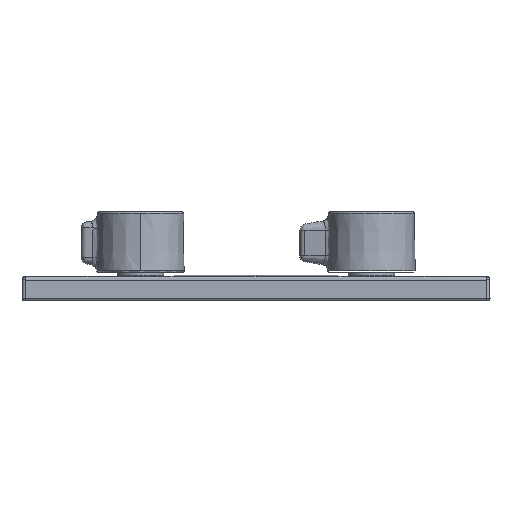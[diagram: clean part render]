
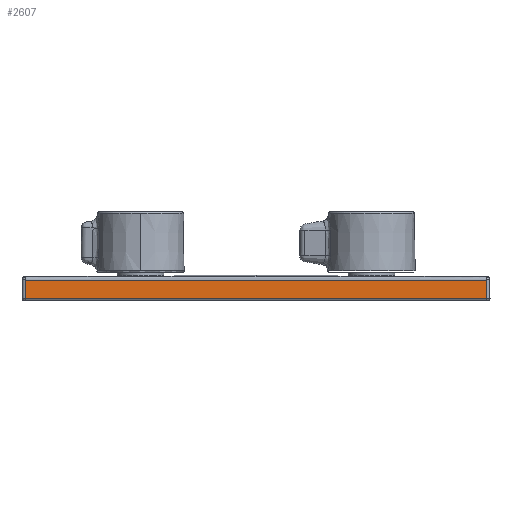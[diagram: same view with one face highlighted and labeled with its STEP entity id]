
A CAD part, left-side view. The second image highlights one B-rep face of the part: STEP entity #2607.
In plain terms, the highlighted planar face has unit normal (-1, 0, 0.009).
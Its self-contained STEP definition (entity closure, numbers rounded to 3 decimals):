
#76 = CARTESIAN_POINT ( 'NONE',  ( -74.94, 25.287, 6.847 ) ) ;
#106 = EDGE_CURVE ( 'NONE', #163, #1867, #3523, .T. ) ;
#151 = DIRECTION ( 'NONE',  ( -1., 0., 0.009 ) ) ;
#163 = VERTEX_POINT ( 'NONE', #2365 ) ;
#388 = LINE ( 'NONE', #1481, #2592 ) ;
#550 = CARTESIAN_POINT ( 'NONE',  ( -74.943, 74.582, 6.523 ) ) ;
#601 = CARTESIAN_POINT ( 'NONE',  ( -75., 0.639, 0. ) ) ;
#914 = PLANE ( 'NONE',  #4198 ) ;
#970 = CARTESIAN_POINT ( 'NONE',  ( -74.996, -73.357, 0.504 ) ) ;
#1073 = EDGE_CURVE ( 'NONE', #163, #4786, #4306, .T. ) ;
#1332 = EDGE_LOOP ( 'NONE', ( #2352, #3424, #1557, #4011 ) ) ;
#1481 = CARTESIAN_POINT ( 'NONE',  ( -74.996, -73.357, 0.504 ) ) ;
#1557 = ORIENTED_EDGE ( 'NONE', *, *, #3398, .T. ) ;
#1677 = CARTESIAN_POINT ( 'NONE',  ( -74.943, -73.304, 6.523 ) ) ;
#1867 = VERTEX_POINT ( 'NONE', #1677 ) ;
#1963 = DIRECTION ( 'NONE',  ( 0., -1., 0. ) ) ;
#2012 = CARTESIAN_POINT ( 'NONE',  ( -74.996, 0.639, 0.504 ) ) ;
#2038 = FACE_OUTER_BOUND ( 'NONE', #1332, .T. ) ;
#2295 = CARTESIAN_POINT ( 'NONE',  ( -74.943, 74.582, 6.523 ) ) ;
#2352 = ORIENTED_EDGE ( 'NONE', *, *, #106, .F. ) ;
#2365 = CARTESIAN_POINT ( 'NONE',  ( -74.943, 74.582, 6.523 ) ) ;
#2496 = VERTEX_POINT ( 'NONE', #970 ) ;
#2521 = VECTOR ( 'NONE', #3933, 1000. ) ;
#2592 = VECTOR ( 'NONE', #2976, 1000. ) ;
#2607 = ADVANCED_FACE ( 'NONE', ( #2038 ), #914, .T. ) ;
#2976 = DIRECTION ( 'NONE',  ( 0.009, 0.009, 1. ) ) ;
#3155 = EDGE_CURVE ( 'NONE', #2496, #1867, #388, .T. ) ;
#3398 = EDGE_CURVE ( 'NONE', #4786, #2496, #4624, .T. ) ;
#3424 = ORIENTED_EDGE ( 'NONE', *, *, #1073, .T. ) ;
#3435 = CARTESIAN_POINT ( 'NONE',  ( -74.94, -24.012, 6.847 ) ) ;
#3523 = B_SPLINE_CURVE_WITH_KNOTS ( 'NONE', 3,
 ( #2295, #76, #3435, #4578 ),
 .UNSPECIFIED., .F., .F.,
 ( 4, 4 ),
 ( 0., 1. ),
 .UNSPECIFIED. ) ;
#3869 = VECTOR ( 'NONE', #1963, 1000. ) ;
#3933 = DIRECTION ( 'NONE',  ( -0.009, 0.009, -1. ) ) ;
#3983 = DIRECTION ( 'NONE',  ( 0.009, 0., 1. ) ) ;
#4011 = ORIENTED_EDGE ( 'NONE', *, *, #3155, .T. ) ;
#4198 = AXIS2_PLACEMENT_3D ( 'NONE', #601, #151, #3983 ) ;
#4306 = LINE ( 'NONE', #550, #2521 ) ;
#4461 = CARTESIAN_POINT ( 'NONE',  ( -74.996, 74.634, 0.504 ) ) ;
#4578 = CARTESIAN_POINT ( 'NONE',  ( -74.943, -73.304, 6.523 ) ) ;
#4624 = LINE ( 'NONE', #2012, #3869 ) ;
#4786 = VERTEX_POINT ( 'NONE', #4461 ) ;
